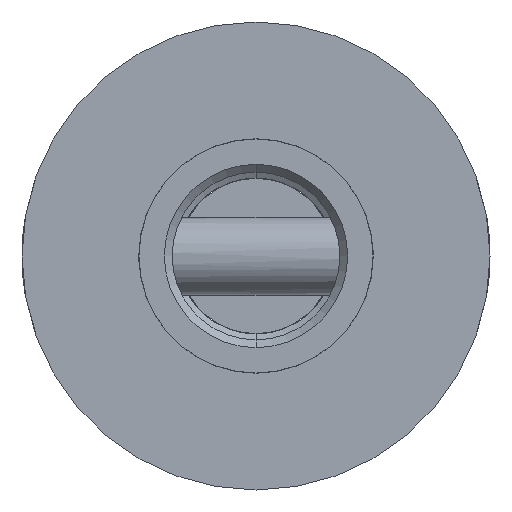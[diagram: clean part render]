
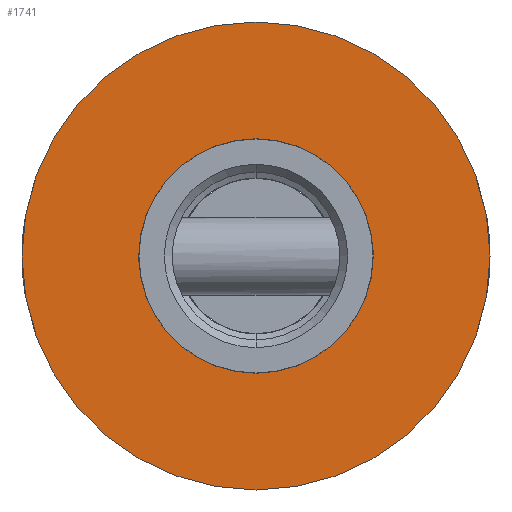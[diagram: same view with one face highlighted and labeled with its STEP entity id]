
A CAD part, front view. The second image highlights one B-rep face of the part: STEP entity #1741.
In plain terms, the highlighted planar face has unit normal (0, -1, 0).
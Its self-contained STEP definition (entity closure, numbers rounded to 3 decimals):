
#49 = FACE_OUTER_BOUND ( 'NONE', #949, .T. ) ;
#87 = CIRCLE ( 'NONE', #204, 6. ) ;
#163 = DIRECTION ( 'NONE',  ( 0., -1., 0. ) ) ;
#204 = AXIS2_PLACEMENT_3D ( 'NONE', #662, #163, #1509 ) ;
#271 = CIRCLE ( 'NONE', #1827, 6. ) ;
#515 = VERTEX_POINT ( 'NONE', #1674 ) ;
#549 = EDGE_CURVE ( 'NONE', #515, #1273, #869, .T. ) ;
#662 = CARTESIAN_POINT ( 'NONE',  ( 0., -400., 0. ) ) ;
#869 = CIRCLE ( 'NONE', #1348, 3.005 ) ;
#949 = EDGE_LOOP ( 'NONE', ( #2259, #2416 ) ) ;
#1002 = DIRECTION ( 'NONE',  ( 0., -1., 0. ) ) ;
#1072 = DIRECTION ( 'NONE',  ( 0., -1., 0. ) ) ;
#1131 = DIRECTION ( 'NONE',  ( 0., -1., 0. ) ) ;
#1140 = VERTEX_POINT ( 'NONE', #2186 ) ;
#1175 = CARTESIAN_POINT ( 'NONE',  ( 0., -400., 0. ) ) ;
#1236 = DIRECTION ( 'NONE',  ( 0., 0., -1. ) ) ;
#1273 = VERTEX_POINT ( 'NONE', #2002 ) ;
#1279 = CARTESIAN_POINT ( 'NONE',  ( 0., -400., 0. ) ) ;
#1298 = DIRECTION ( 'NONE',  ( 0., 0., -1. ) ) ;
#1324 = FACE_BOUND ( 'NONE', #1966, .T. ) ;
#1348 = AXIS2_PLACEMENT_3D ( 'NONE', #1279, #1072, #1236 ) ;
#1403 = PLANE ( 'NONE',  #3239 ) ;
#1433 = DIRECTION ( 'NONE',  ( 0., 0., -1. ) ) ;
#1509 = DIRECTION ( 'NONE',  ( 0., 0., -1. ) ) ;
#1642 = DIRECTION ( 'NONE',  ( 0., -1., 0. ) ) ;
#1665 = CARTESIAN_POINT ( 'NONE',  ( 0., -400., 0. ) ) ;
#1674 = CARTESIAN_POINT ( 'NONE',  ( 0., -400., -3.005 ) ) ;
#1741 = ADVANCED_FACE ( 'NONE', ( #1324, #49 ), #1403, .T. ) ;
#1821 = EDGE_CURVE ( 'NONE', #2017, #1140, #271, .T. ) ;
#1827 = AXIS2_PLACEMENT_3D ( 'NONE', #2820, #1002, #3292 ) ;
#1879 = EDGE_CURVE ( 'NONE', #1140, #2017, #87, .T. ) ;
#1966 = EDGE_LOOP ( 'NONE', ( #2091, #2254 ) ) ;
#2002 = CARTESIAN_POINT ( 'NONE',  ( 0., -400., 3.005 ) ) ;
#2017 = VERTEX_POINT ( 'NONE', #2516 ) ;
#2091 = ORIENTED_EDGE ( 'NONE', *, *, #549, .F. ) ;
#2186 = CARTESIAN_POINT ( 'NONE',  ( 0., -400., -6. ) ) ;
#2254 = ORIENTED_EDGE ( 'NONE', *, *, #2811, .F. ) ;
#2259 = ORIENTED_EDGE ( 'NONE', *, *, #1879, .T. ) ;
#2268 = AXIS2_PLACEMENT_3D ( 'NONE', #1665, #1642, #1298 ) ;
#2416 = ORIENTED_EDGE ( 'NONE', *, *, #1821, .T. ) ;
#2516 = CARTESIAN_POINT ( 'NONE',  ( 0., -400., 6. ) ) ;
#2811 = EDGE_CURVE ( 'NONE', #1273, #515, #3060, .T. ) ;
#2820 = CARTESIAN_POINT ( 'NONE',  ( 0., -400., 0. ) ) ;
#3060 = CIRCLE ( 'NONE', #2268, 3.005 ) ;
#3239 = AXIS2_PLACEMENT_3D ( 'NONE', #1175, #1131, #1433 ) ;
#3292 = DIRECTION ( 'NONE',  ( 0., 0., -1. ) ) ;
